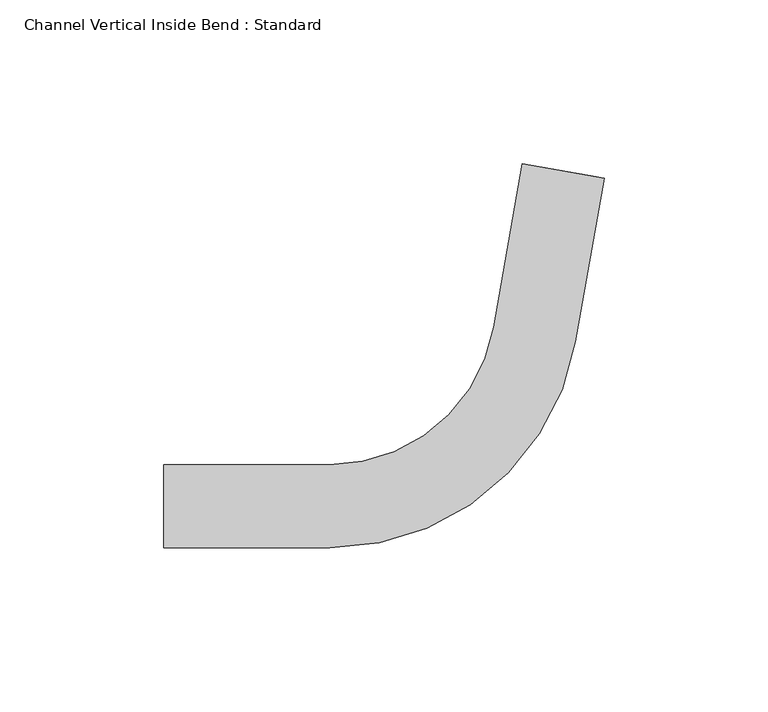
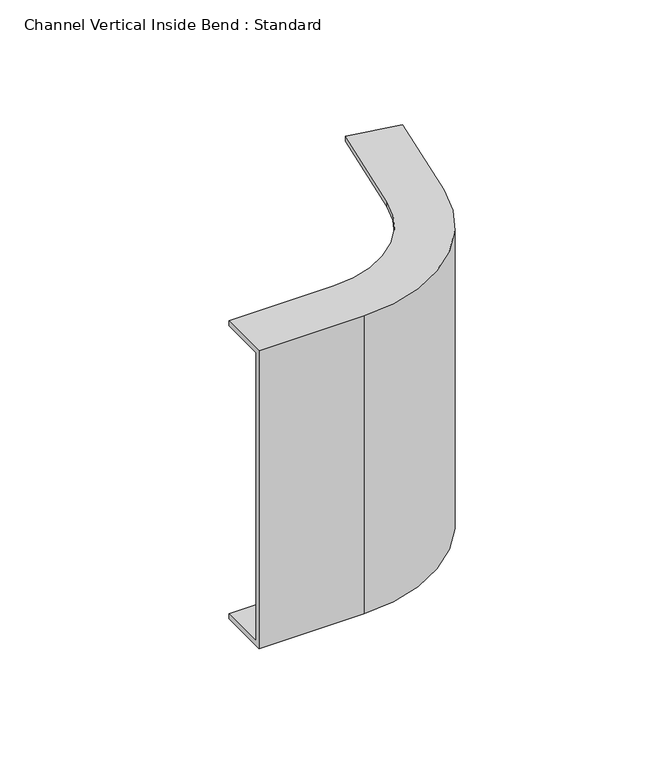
"""IFC4 building model written with IfcOpenShell, lengths in millimetres: cable carrier fitting geometry, Channel Vertical Inside Bend : Standard."""

from ifc_helpers import new_model, si_unit, frame, origin, place, context, project, spatial, polyline, circle_curve, source, transform, mapped, element, save
from ifc_brep_helpers import plane_surface, cylinder_surface, revolved_surface, advanced_brep


def channel_vertical_inside_bend_standard_2b1ffb91(model_context):
    return source(origin(), model_context, "Body", "AdvancedBrep", [
        advanced_brep(
        [(-104.0828266, 12.7, 76.2), (-104.0828266, 12.7, 73.66), (-104.0828266, -10.16, 73.66), (-104.0828266, -10.16, -73.66), (-104.0828266, 12.7, -73.66), (-104.0828266, 12.7, -76.2), (-104.0828266, -12.7, -76.2), (-104.0828266, -12.7, 76.2), (5.5667347, 104.7069064, 76.2), (30.5808516, 100.2962427, 76.2), (30.5808516, 100.2962427, -76.2), (5.5667347, 104.7069064, -76.2), (5.5667347, 104.7069064, -73.66), (28.0794399, 100.7373091, -73.66), (28.0794399, 100.7373091, 73.66), (5.5667347, 104.7069064, 73.66), (-53.2828266, -12.7, 76.2), (21.7595242, 50.2680089, 76.2), (-3.2545927, 54.6786726, 76.2), (-53.2828266, 12.7, 76.2), (-53.2828266, -12.7, -76.2), (-53.2828266, 12.7, -76.2), (-3.2545927, 54.6786726, -76.2), (21.7595242, 50.2680089, -76.2), (-53.2828266, 12.7, -73.66), (-53.2828266, -10.16, -73.66), (19.2581125, 50.7090752, -73.66), (-3.2545927, 54.6786726, -73.66), (-53.2828266, -10.16, 73.66), (-53.2828266, 12.7, 73.66), (-3.2545927, 54.6786726, 73.66), (19.2581125, 50.7090752, 73.66)],
        [
            (0, 1),
            (1, 2),
            (2, 3),
            (3, 4),
            (4, 5),
            (5, 6),
            (6, 7),
            (7, 0),
            (8, 9),
            (9, 10),
            (10, 11),
            (11, 12),
            (12, 13),
            (13, 14),
            (14, 15),
            (15, 8),
            (7, 16),
            (16, 17, circle_curve(frame((-53.2828266, 63.5, 76.2), z_axis=(0.0, 0.0, 1.0), x_axis=(0.0, -1.0, 0.0)), 76.2)),
            (17, 9),
            (8, 18),
            (18, 19, circle_curve(frame((-53.2828266, 63.5, 76.2), z_axis=(0.0, 0.0, -1.0), x_axis=(0.0, -1.0, 0.0)), 50.8)),
            (19, 0),
            (6, 20),
            (20, 16),
            (5, 21),
            (21, 22, circle_curve(frame((-53.2828266, 63.5, -76.2), z_axis=(0.0, 0.0, 1.0), x_axis=(0.0, -1.0, 0.0)), 50.8)),
            (22, 11),
            (10, 23),
            (23, 20, circle_curve(frame((-53.2828266, 63.5, -76.2), z_axis=(0.0, 0.0, -1.0), x_axis=(0.0, -1.0, 0.0)), 76.2)),
            (4, 24),
            (24, 21),
            (3, 25),
            (25, 26, circle_curve(frame((-53.2828266, 63.5, -73.66), z_axis=(0.0, 0.0, 1.0), x_axis=(0.0, -1.0, 0.0)), 73.66)),
            (26, 13),
            (12, 27),
            (27, 24, circle_curve(frame((-53.2828266, 63.5, -73.66), z_axis=(0.0, 0.0, -1.0), x_axis=(0.0, -1.0, 0.0)), 50.8)),
            (2, 28),
            (28, 25),
            (1, 29),
            (29, 30, circle_curve(frame((-53.2828266, 63.5, 73.66), z_axis=(0.0, 0.0, 1.0), x_axis=(0.0, -1.0, 0.0)), 50.8)),
            (30, 15),
            (14, 31),
            (31, 28, circle_curve(frame((-53.2828266, 63.5, 73.66), z_axis=(0.0, 0.0, -1.0), x_axis=(0.0, -1.0, 0.0)), 73.66)),
            (19, 29),
            (23, 17),
            (27, 22),
            (31, 26),
            (18, 30),
        ],
        [
            plane_surface(frame((-104.0828266, 0.0, 0.0), z_axis=(-1.0, 0.0, 0.0), x_axis=(0.0, 0.0, 1.0))),
            plane_surface(frame((18.0737932, 102.5015746, 0.0), z_axis=(0.1736481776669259, 0.9848077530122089, 0.0), x_axis=(0.0, 0.0, 1.0))),
            plane_surface(frame((-104.0828266, -12.7, 76.2), z_axis=(0.0, 0.0, 1.0), x_axis=(1.0, 0.0, 0.0))),
            plane_surface(frame((-104.0828266, -12.7, -76.2), z_axis=(0.0, -1.0, 0.0), x_axis=(1.0, 0.0, 0.0))),
            plane_surface(frame((-104.0828266, 12.7, -76.2), z_axis=(0.0, 0.0, -1.0), x_axis=(1.0, 0.0, 0.0))),
            plane_surface(frame((-104.0828266, 12.7, -73.66), z_axis=(0.0, 1.0, 0.0), x_axis=(1.0, 0.0, 0.0))),
            plane_surface(frame((-104.0828266, -10.16, -73.66), z_axis=(0.0, 0.0, 1.0), x_axis=(1.0, 0.0, 0.0))),
            plane_surface(frame((-104.0828266, -10.16, 73.66), z_axis=(0.0, 1.0, 0.0), x_axis=(1.0, 0.0, 0.0))),
            plane_surface(frame((-104.0828266, 12.7, 73.66), z_axis=(0.0, 0.0, -1.0), x_axis=(1.0, 0.0, 0.0))),
            plane_surface(frame((-104.0828266, 12.7, 76.2), z_axis=(0.0, 1.0, 0.0), x_axis=(1.0, 0.0, 0.0))),
            cylinder_surface(frame((-53.2828266, 63.5, 0.0), z_axis=(0.0, 0.0, 1.0), x_axis=(0.0, -1.0, 0.0)), 76.2),
            revolved_surface(polyline([(-53.2828266, 12.700000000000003, -73.66), (-53.2828266, 12.700000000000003, -76.2)]), (-53.2828266, 63.5, 0.0), (0.0, 0.0, 1.0)),
            revolved_surface(polyline([(-53.2828266, -10.159999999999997, 73.66), (-53.2828266, -10.159999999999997, -73.66)]), (-53.2828266, 63.5, 0.0), (0.0, 0.0, 1.0)),
            revolved_surface(polyline([(-53.2828266, 12.700000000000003, 76.2), (-53.2828266, 12.700000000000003, 73.66)]), (-53.2828266, 63.5, 0.0), (0.0, 0.0, 1.0)),
            plane_surface(frame((21.7595242, 50.2680089, -76.2), z_axis=(0.9848077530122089, -0.17364817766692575, 0.0), x_axis=(0.17364817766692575, 0.9848077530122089, 0.0))),
            plane_surface(frame((-3.2545927, 54.6786726, -73.66), z_axis=(-0.9848077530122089, 0.17364817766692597, 0.0), x_axis=(0.17364817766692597, 0.9848077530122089, 0.0))),
            plane_surface(frame((19.2581125, 50.7090752, 73.66), z_axis=(-0.9848077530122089, 0.17364817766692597, 0.0), x_axis=(0.17364817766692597, 0.9848077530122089, 0.0))),
            plane_surface(frame((-3.2545927, 54.6786726, 76.2), z_axis=(-0.9848077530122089, 0.17364817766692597, 0.0), x_axis=(0.17364817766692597, 0.9848077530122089, 0.0))),
        ],
        [
            (0, [[1, 2, 3, 4, 5, 6, 7, 8]]),
            (1, [[9, 10, 11, 12, 13, 14, 15, 16]]),
            (2, [[-8, 17, 18, 19, -9, 20, 21, 22]]),
            (3, [[-7, 23, 24, -17]]),
            (4, [[-6, 25, 26, 27, -11, 28, 29, -23]]),
            (5, [[-5, 30, 31, -25]]),
            (6, [[-4, 32, 33, 34, -13, 35, 36, -30]]),
            (7, [[-3, 37, 38, -32]]),
            (8, [[-2, 39, 40, 41, -15, 42, 43, -37]]),
            (9, [[-1, -22, 44, -39]]),
            (10, [[-18, -24, -29, 45]]),
            (11, [[-26, -31, -36, 46]]),
            (12, [[-33, -38, -43, 47]]),
            (13, [[-40, -44, -21, 48]]),
            (14, [[-45, -28, -10, -19]]),
            (15, [[-46, -35, -12, -27]]),
            (16, [[-47, -42, -14, -34]]),
            (17, [[-48, -20, -16, -41]]),
        ],
    ),
    ])


if __name__ == "__main__":
    model = new_model("IFC4")
    model_context = context("Model", 3, world=origin())
    ifc_project = project(units=[si_unit("LENGTHUNIT", "METRE", prefix="MILLI")], contexts=[model_context])
    site = spatial("IfcSite", under=ifc_project)
    building = spatial("IfcBuilding", under=site)
    placement = place(None, origin())
    channel_vertical_inside_bend_standard_shape = channel_vertical_inside_bend_standard_2b1ffb91(model_context)
    element("IfcCableCarrierFitting", 1, ObjectType="Channel Vertical Inside Bend : Standard", at=placement, inside=building, context=model_context, shape_type="MappedRepresentation", body=[
        mapped(channel_vertical_inside_bend_standard_shape, transform((0.0, 0.0, 0.0), x_axis=(1.0, 0.0, 0.0), y_axis=(0.0, 1.0, 0.0), z_axis=(0.0, 0.0, 1.0))),
    ])
    save(model, "model.ifc")
